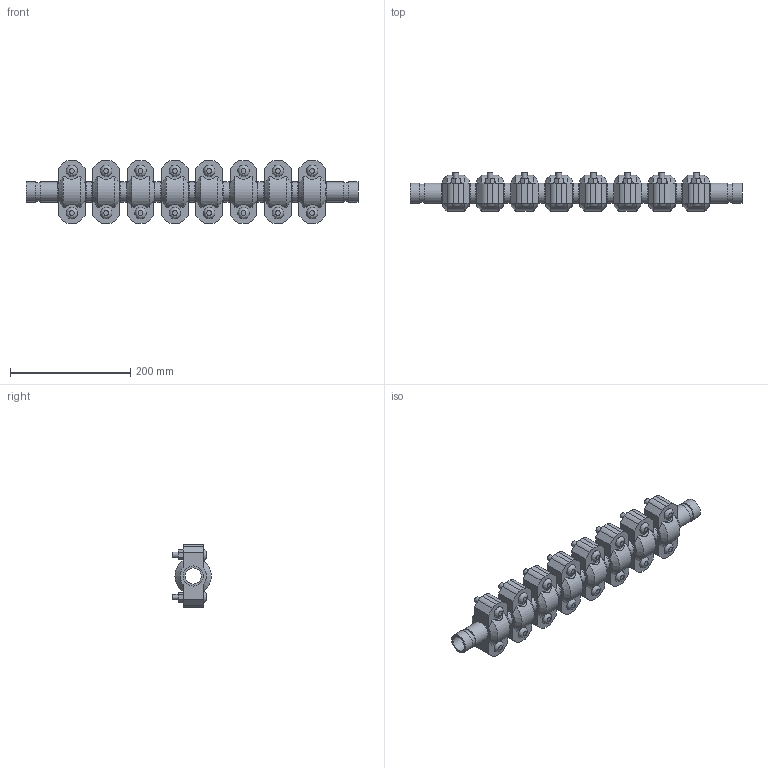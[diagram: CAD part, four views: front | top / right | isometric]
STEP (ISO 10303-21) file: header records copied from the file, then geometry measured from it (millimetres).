
FILE_DESCRIPTION(/* description */ ('VIC EXPANSION JOINT 8 COUPLINGS COMPRESSED STYLE 155 (OGS)','CAx-IF Rec.Pracs.---Representation and Presentation of Product Manufacturing Information (PMI)---4.0---2014-10-13'),/* implementation_level */ '2;1');
FILE_NAME(/* name */ 'C:\Users\kkamble\AppData\Roaming\Autodesk\ApplicationPlugins\Victaulic.Temp\A709\Victaulic_IPS_Expansion Joint_Compressed_8 Couplings_Style 155 (OGS)_1 (25).stp',/* time_stamp */ '2021-06-27T00:35:38+02:00',/* author */ ('kkamble'),/* organization */ ('Victaulic'),/* preprocessor_version */ 'ST-DEVELOPER v17.2',/* originating_system */ 'Autodesk Inventor 2019',/* authorisation */ '');
FILE_SCHEMA (('AP242_MANAGED_MODEL_BASED_3D_ENGINEERING_MIM_LF { 1 0 10303 442 1 1 4 }'));
Length unit declared in the file: inch
Products named in the file (4): 155-01.0; Nipple-01.0; Nipple-01.0_1; 077-01.0
Assembly tree (17 placements, depth 2):
  155-01.0
    Nipple-01.0  x2
    Nipple-01.0_1  x7
    077-01.0  x8
Bounding box: 552.45 x 64.33 x 104.65 mm (x, y, z)
Volume: 1315166 mm3; surface area: 343177.2 mm2
Topology: 17 solids, 33 shells, 564 faces, 1382 edges, 968 vertices
Faces by surface type: plane 326, cylinder 190, cone 32, bspline 16
Full cylindrical faces by diameter (mm): 9.525 x32, 11.43 x16, 26.645 x9, 30.226 x18, 33.401 x35
Entity records: 2939 total; most frequent: CARTESIAN_POINT 563, DIRECTION 479, ORIENTED_EDGE 398, EDGE_CURVE 199, AXIS2_PLACEMENT_3D 192, VERTEX_POINT 142, EDGE_LOOP 105, LINE 95
